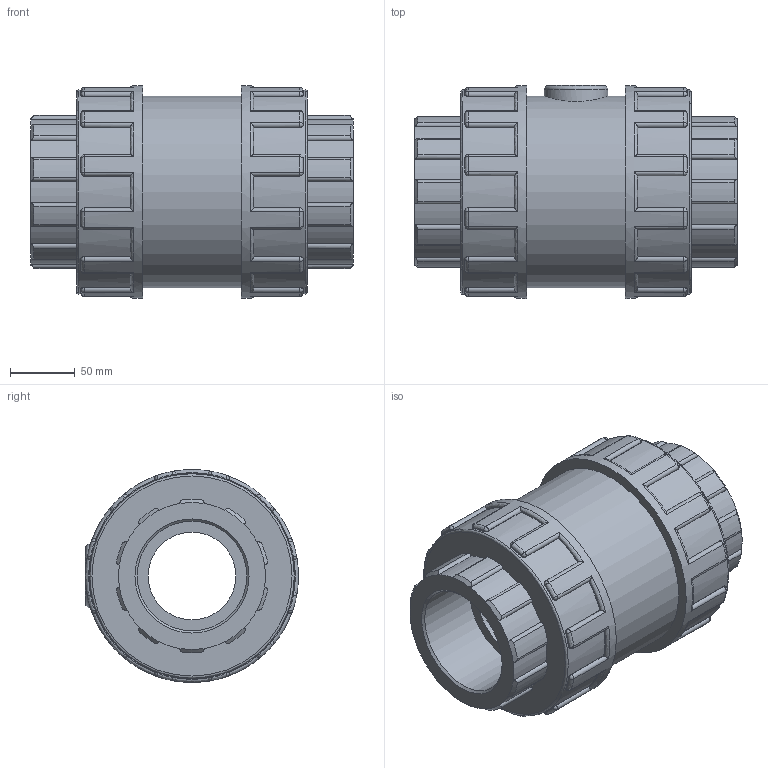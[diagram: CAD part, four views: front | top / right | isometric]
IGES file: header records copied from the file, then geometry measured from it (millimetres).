
Global section: file name: 11081030.ipt; native system: Autodesk Inventor 2015; preprocessor: unknown; author: KIM; date: 20171207.170100; units: millimetre
Bounding box: 250 x 165 x 165 mm (x, y, z)
Volume: 3075524.9 mm3; surface area: 220474.3 mm2
Topology: 1 solids, 1 shells, 411 faces, 1033 edges, 630 vertices
Faces by surface type: cylinder 182, plane 105, revolution 56, sphere 48, cone 20
Full cylindrical faces by diameter (mm): 49.5 x1, 148.5 x1, 158.4 x2, 165 x2
